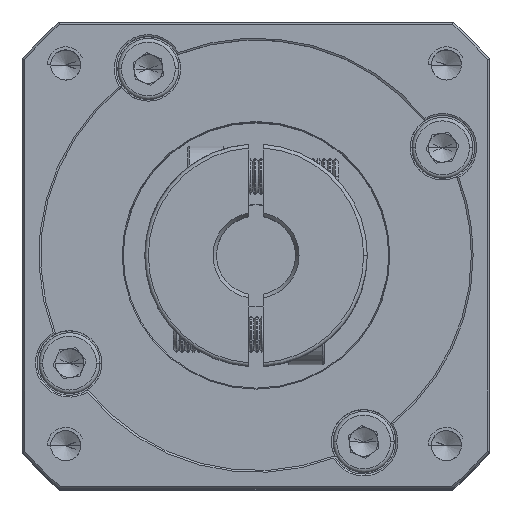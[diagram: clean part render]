
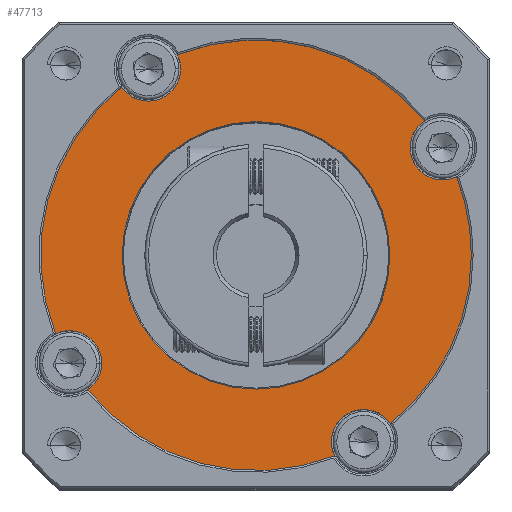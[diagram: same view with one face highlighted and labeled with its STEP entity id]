
A CAD part, top view. The second image highlights one B-rep face of the part: STEP entity #47713.
In plain terms, the highlighted planar face has unit normal (0, 0, 1).
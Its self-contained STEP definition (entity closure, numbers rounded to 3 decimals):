
#468 = CARTESIAN_POINT ( 'NONE',  ( -61.584, 25.969, 31.514 ) ) ;
#1385 = ORIENTED_EDGE ( 'NONE', *, *, #37716, .F. ) ;
#1546 = CIRCLE ( 'NONE', #13204, 4.5 ) ;
#2411 = AXIS2_PLACEMENT_3D ( 'NONE', #31230, #90487, #39852 ) ;
#2604 = DIRECTION ( 'NONE',  ( 0., 0., 1. ) ) ;
#2934 = CARTESIAN_POINT ( 'NONE',  ( -50.639, -1.963, 31.514 ) ) ;
#3004 = CIRCLE ( 'NONE', #108525, 4.5 ) ;
#3608 = AXIS2_PLACEMENT_3D ( 'NONE', #38460, #97634, #47078 ) ;
#3835 = ORIENTED_EDGE ( 'NONE', *, *, #72537, .T. ) ;
#6274 = CARTESIAN_POINT ( 'NONE',  ( -61.584, 25.969, 31.514 ) ) ;
#6393 = DIRECTION ( 'NONE',  ( 0., 0., 1. ) ) ;
#6570 = CARTESIAN_POINT ( 'NONE',  ( -87.565, 10.969, 31.514 ) ) ;
#6616 = ORIENTED_EDGE ( 'NONE', *, *, #84804, .T. ) ;
#6624 = DIRECTION ( 'NONE',  ( 1., 0., 0. ) ) ;
#7763 = EDGE_CURVE ( 'NONE', #26664, #91143, #73872, .T. ) ;
#8031 = CARTESIAN_POINT ( 'NONE',  ( -51.084, -0.011, 31.514 ) ) ;
#9043 = DIRECTION ( 'NONE',  ( 1., 0., 0. ) ) ;
#9403 = VERTEX_POINT ( 'NONE', #96291 ) ;
#10364 = ORIENTED_EDGE ( 'NONE', *, *, #46630, .F. ) ;
#11371 = AXIS2_PLACEMENT_3D ( 'NONE', #6274, #65789, #14870 ) ;
#12168 = DIRECTION ( 'NONE',  ( 0., 0., 1. ) ) ;
#12490 = FACE_BOUND ( 'NONE', #66399, .T. ) ;
#12534 = ORIENTED_EDGE ( 'NONE', *, *, #68305, .F. ) ;
#13204 = AXIS2_PLACEMENT_3D ( 'NONE', #34448, #93676, #43088 ) ;
#14526 = CIRCLE ( 'NONE', #108369, 4.5 ) ;
#14870 = DIRECTION ( 'NONE',  ( 1., 0., 0. ) ) ;
#15158 = DIRECTION ( 'NONE',  ( 1., 0., 0. ) ) ;
#15318 = ORIENTED_EDGE ( 'NONE', *, *, #85834, .T. ) ;
#15967 = AXIS2_PLACEMENT_3D ( 'NONE', #108126, #57620, #6624 ) ;
#16040 = CARTESIAN_POINT ( 'NONE',  ( -76.584, 51.95, 31.514 ) ) ;
#18417 = VERTEX_POINT ( 'NONE', #87510 ) ;
#18742 = VERTEX_POINT ( 'NONE', #8031 ) ;
#19417 = ORIENTED_EDGE ( 'NONE', *, *, #34745, .F. ) ;
#20237 = AXIS2_PLACEMENT_3D ( 'NONE', #63098, #12168, #71564 ) ;
#21409 = DIRECTION ( 'NONE',  ( 0., 0., 1. ) ) ;
#21421 = DIRECTION ( 'NONE',  ( 1., 0., 0. ) ) ;
#21503 = ORIENTED_EDGE ( 'NONE', *, *, #23289, .F. ) ;
#21537 = CARTESIAN_POINT ( 'NONE',  ( -61.584, 25.969, 31.514 ) ) ;
#22308 = CARTESIAN_POINT ( 'NONE',  ( -38.139, 44.687, 31.514 ) ) ;
#23289 = EDGE_CURVE ( 'NONE', #26664, #62486, #3004, .T. ) ;
#23310 = VERTEX_POINT ( 'NONE', #98727 ) ;
#24066 = CARTESIAN_POINT ( 'NONE',  ( -80.302, 49.414, 31.514 ) ) ;
#24071 = VERTEX_POINT ( 'NONE', #2934 ) ;
#24174 = ORIENTED_EDGE ( 'NONE', *, *, #7763, .T. ) ;
#24550 = DIRECTION ( 'NONE',  ( 1., 0., 0. ) ) ;
#26664 = VERTEX_POINT ( 'NONE', #24066 ) ;
#28536 = ORIENTED_EDGE ( 'NONE', *, *, #93611, .F. ) ;
#29316 = DIRECTION ( 'NONE',  ( 0., 0., 1. ) ) ;
#29871 = EDGE_CURVE ( 'NONE', #104846, #9403, #63469, .T. ) ;
#31131 = VERTEX_POINT ( 'NONE', #43468 ) ;
#31230 = CARTESIAN_POINT ( 'NONE',  ( -61.584, 25.969, 31.514 ) ) ;
#33551 = AXIS2_PLACEMENT_3D ( 'NONE', #468, #59988, #9043 ) ;
#34448 = CARTESIAN_POINT ( 'NONE',  ( -87.565, 10.969, 31.514 ) ) ;
#34745 = EDGE_CURVE ( 'NONE', #62486, #31131, #58980, .T. ) ;
#35449 = DIRECTION ( 'NONE',  ( 0., 0., 1. ) ) ;
#37187 = VERTEX_POINT ( 'NONE', #46604 ) ;
#37716 = EDGE_CURVE ( 'NONE', #23310, #18742, #93564, .T. ) ;
#38460 = CARTESIAN_POINT ( 'NONE',  ( -61.584, 25.969, 31.514 ) ) ;
#39852 = DIRECTION ( 'NONE',  ( 1., 0., 0. ) ) ;
#42314 = CARTESIAN_POINT ( 'NONE',  ( -35.603, 40.969, 31.514 ) ) ;
#42614 = EDGE_CURVE ( 'NONE', #18742, #24071, #77725, .T. ) ;
#43088 = DIRECTION ( 'NONE',  ( 1., 0., 0. ) ) ;
#43468 = CARTESIAN_POINT ( 'NONE',  ( -72.529, 53.902, 31.514 ) ) ;
#46604 = CARTESIAN_POINT ( 'NONE',  ( -85.029, 7.252, 31.514 ) ) ;
#46613 = CIRCLE ( 'NONE', #99207, 4.5 ) ;
#46630 = EDGE_CURVE ( 'NONE', #78178, #18417, #88875, .T. ) ;
#47078 = DIRECTION ( 'NONE',  ( 1., 0., 0. ) ) ;
#47121 = CIRCLE ( 'NONE', #2411, 30. ) ;
#47134 = AXIS2_PLACEMENT_3D ( 'NONE', #42314, #101433, #50884 ) ;
#47713 = ADVANCED_FACE ( 'NONE', ( #12490, #100026 ), #75908, .T. ) ;
#49682 = CIRCLE ( 'NONE', #15967, 30. ) ;
#50784 = CARTESIAN_POINT ( 'NONE',  ( -61.584, 25.969, 31.514 ) ) ;
#50884 = DIRECTION ( 'NONE',  ( 1., 0., 0. ) ) ;
#50915 = CIRCLE ( 'NONE', #11371, 30. ) ;
#53015 = AXIS2_PLACEMENT_3D ( 'NONE', #50784, #109782, #59240 ) ;
#53644 = CARTESIAN_POINT ( 'NONE',  ( -61.584, 25.969, 31.514 ) ) ;
#54235 = VERTEX_POINT ( 'NONE', #97895 ) ;
#57365 = CARTESIAN_POINT ( 'NONE',  ( -76.584, 51.95, 31.514 ) ) ;
#57620 = DIRECTION ( 'NONE',  ( 0., 0., 1. ) ) ;
#58752 = EDGE_CURVE ( 'NONE', #9403, #104846, #91152, .T. ) ;
#58933 = CARTESIAN_POINT ( 'NONE',  ( -40.103, 40.969, 31.514 ) ) ;
#58980 = CIRCLE ( 'NONE', #77480, 4.5 ) ;
#59240 = DIRECTION ( 'NONE',  ( 1., 0., 0. ) ) ;
#59988 = DIRECTION ( 'NONE',  ( 0., 0., -1. ) ) ;
#62107 = DIRECTION ( 'NONE',  ( 1., 0., 0. ) ) ;
#62486 = VERTEX_POINT ( 'NONE', #73668 ) ;
#63098 = CARTESIAN_POINT ( 'NONE',  ( -46.584, -0.011, 31.514 ) ) ;
#63469 = CIRCLE ( 'NONE', #3608, 18.644 ) ;
#65789 = DIRECTION ( 'NONE',  ( 0., 0., 1. ) ) ;
#65902 = DIRECTION ( 'NONE',  ( 1., 0., 0. ) ) ;
#66095 = DIRECTION ( 'NONE',  ( 0., 0., 1. ) ) ;
#66399 = EDGE_LOOP ( 'NONE', ( #98545, #100483 ) ) ;
#68305 = EDGE_CURVE ( 'NONE', #109024, #78178, #46613, .T. ) ;
#68507 = EDGE_CURVE ( 'NONE', #37187, #54235, #14526, .T. ) ;
#71564 = DIRECTION ( 'NONE',  ( 1., 0., 0. ) ) ;
#72537 = EDGE_CURVE ( 'NONE', #23310, #83405, #47121, .T. ) ;
#73668 = CARTESIAN_POINT ( 'NONE',  ( -72.084, 51.95, 31.514 ) ) ;
#73872 = CIRCLE ( 'NONE', #82075, 30. ) ;
#73968 = CARTESIAN_POINT ( 'NONE',  ( -31.584, 25.969, 31.514 ) ) ;
#75460 = DIRECTION ( 'NONE',  ( 0., 0., 1. ) ) ;
#75908 = PLANE ( 'NONE',  #53015 ) ;
#77116 = AXIS2_PLACEMENT_3D ( 'NONE', #86157, #35449, #94665 ) ;
#77480 = AXIS2_PLACEMENT_3D ( 'NONE', #16040, #75460, #24550 ) ;
#77725 = CIRCLE ( 'NONE', #77116, 4.5 ) ;
#78178 = VERTEX_POINT ( 'NONE', #58933 ) ;
#80080 = CARTESIAN_POINT ( 'NONE',  ( -35.603, 40.969, 31.514 ) ) ;
#82075 = AXIS2_PLACEMENT_3D ( 'NONE', #21537, #21409, #21421 ) ;
#83405 = VERTEX_POINT ( 'NONE', #73968 ) ;
#84804 = EDGE_CURVE ( 'NONE', #83405, #18417, #50915, .T. ) ;
#85834 = EDGE_CURVE ( 'NONE', #109024, #31131, #95965, .T. ) ;
#86157 = CARTESIAN_POINT ( 'NONE',  ( -46.584, -0.011, 31.514 ) ) ;
#87510 = CARTESIAN_POINT ( 'NONE',  ( -33.652, 36.914, 31.514 ) ) ;
#88616 = DIRECTION ( 'NONE',  ( 1., 0., 0. ) ) ;
#88875 = CIRCLE ( 'NONE', #47134, 4.5 ) ;
#90487 = DIRECTION ( 'NONE',  ( 0., 0., 1. ) ) ;
#91143 = VERTEX_POINT ( 'NONE', #100794 ) ;
#91152 = CIRCLE ( 'NONE', #33551, 18.644 ) ;
#93065 = EDGE_CURVE ( 'NONE', #37187, #24071, #49682, .T. ) ;
#93441 = CARTESIAN_POINT ( 'NONE',  ( -80.229, 25.969, 31.514 ) ) ;
#93564 = CIRCLE ( 'NONE', #20237, 4.5 ) ;
#93611 = EDGE_CURVE ( 'NONE', #54235, #91143, #1546, .T. ) ;
#93676 = DIRECTION ( 'NONE',  ( 0., 0., 1. ) ) ;
#94665 = DIRECTION ( 'NONE',  ( 1., 0., 0. ) ) ;
#95330 = AXIS2_PLACEMENT_3D ( 'NONE', #53644, #2604, #62107 ) ;
#95768 = EDGE_LOOP ( 'NONE', ( #103799, #105504, #107604, #1385, #3835, #6616, #10364, #12534, #15318, #19417, #21503, #24174, #28536 ) ) ;
#95965 = CIRCLE ( 'NONE', #95330, 30. ) ;
#96291 = CARTESIAN_POINT ( 'NONE',  ( -42.94, 25.969, 31.514 ) ) ;
#97634 = DIRECTION ( 'NONE',  ( 0., 0., -1. ) ) ;
#97895 = CARTESIAN_POINT ( 'NONE',  ( -83.065, 10.969, 31.514 ) ) ;
#98545 = ORIENTED_EDGE ( 'NONE', *, *, #58752, .T. ) ;
#98727 = CARTESIAN_POINT ( 'NONE',  ( -42.867, 2.525, 31.514 ) ) ;
#99207 = AXIS2_PLACEMENT_3D ( 'NONE', #80080, #29316, #88616 ) ;
#100026 = FACE_OUTER_BOUND ( 'NONE', #95768, .T. ) ;
#100483 = ORIENTED_EDGE ( 'NONE', *, *, #29871, .T. ) ;
#100794 = CARTESIAN_POINT ( 'NONE',  ( -89.516, 15.024, 31.514 ) ) ;
#101433 = DIRECTION ( 'NONE',  ( 0., 0., 1. ) ) ;
#103799 = ORIENTED_EDGE ( 'NONE', *, *, #68507, .F. ) ;
#104846 = VERTEX_POINT ( 'NONE', #93441 ) ;
#105504 = ORIENTED_EDGE ( 'NONE', *, *, #93065, .T. ) ;
#107604 = ORIENTED_EDGE ( 'NONE', *, *, #42614, .F. ) ;
#108126 = CARTESIAN_POINT ( 'NONE',  ( -61.584, 25.969, 31.514 ) ) ;
#108369 = AXIS2_PLACEMENT_3D ( 'NONE', #6570, #66095, #15158 ) ;
#108525 = AXIS2_PLACEMENT_3D ( 'NONE', #57365, #6393, #65902 ) ;
#109024 = VERTEX_POINT ( 'NONE', #22308 ) ;
#109782 = DIRECTION ( 'NONE',  ( 0., 0., 1. ) ) ;
